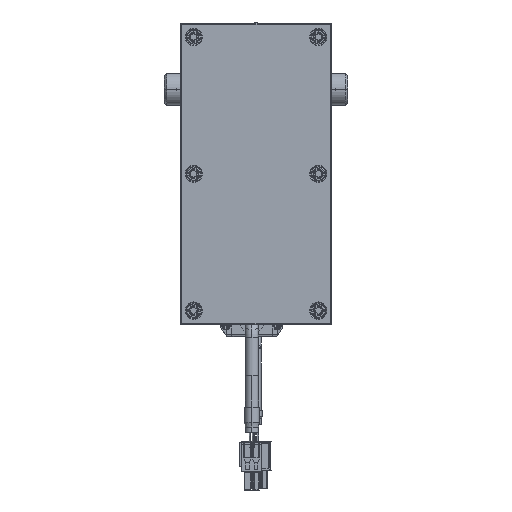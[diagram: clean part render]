
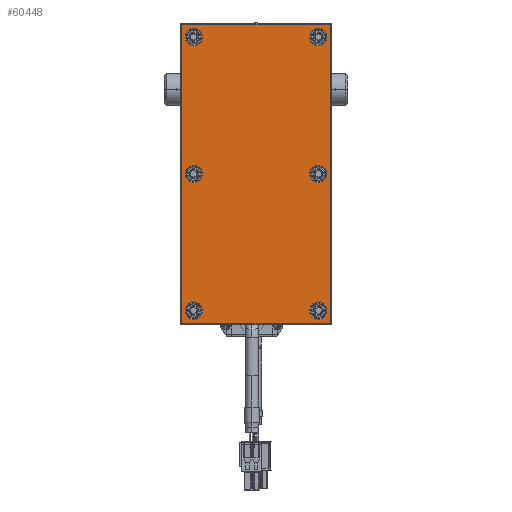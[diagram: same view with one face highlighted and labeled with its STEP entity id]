
A CAD part, front view. The second image highlights one B-rep face of the part: STEP entity #60448.
In plain terms, the highlighted planar face has unit normal (0, -1, 0).
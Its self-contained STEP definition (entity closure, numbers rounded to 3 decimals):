
#59065=CARTESIAN_POINT('',(74.,-6.,-36.5));
#59066=DIRECTION('',(0.,-1.,0.));
#59067=DIRECTION('',(0.,0.,-1.));
#59068=AXIS2_PLACEMENT_3D('',#59065,#59066,#59067);
#59070=DIRECTION('',(1.,0.,0.));
#59071=VECTOR('',#59070,148.);
#59072=CARTESIAN_POINT('',(-74.,-6.,
-37.));
#59073=LINE('',#59072,#59071);
#59074=CARTESIAN_POINT('',(-74.,-6.,-36.5));
#59075=DIRECTION('',(0.,-1.,0.));
#59076=DIRECTION('',(-1.,0.,0.));
#59077=AXIS2_PLACEMENT_3D('',#59074,#59075,#59076);
#59079=DIRECTION('',(0.,0.,-1.));
#59080=VECTOR('',#59079,73.);
#59081=CARTESIAN_POINT('',(-74.5,-6.,
36.5));
#59082=LINE('',#59081,#59080);
#59083=CARTESIAN_POINT('',(-74.,-6.,36.5));
#59084=DIRECTION('',(0.,-1.,0.));
#59085=DIRECTION('',(0.,0.,1.));
#59086=AXIS2_PLACEMENT_3D('',#59083,#59084,#59085);
#59088=DIRECTION('',(-1.,0.,0.));
#59089=VECTOR('',#59088,148.);
#59090=CARTESIAN_POINT('',(74.,-6.,
37.));
#59091=LINE('',#59090,#59089);
#59092=CARTESIAN_POINT('',(74.,-6.,36.5));
#59093=DIRECTION('',(0.,-1.,0.));
#59094=DIRECTION('',(1.,0.,0.));
#59095=AXIS2_PLACEMENT_3D('',#59092,#59093,#59094);
#59097=DIRECTION('',(0.,0.,1.));
#59098=VECTOR('',#59097,73.);
#59099=CARTESIAN_POINT('',(74.5,-6.,
-36.5));
#59100=LINE('',#59099,#59098);
#59101=CARTESIAN_POINT('',(-68.,-6.,-31.));
#59102=DIRECTION('',(0.,1.,0.));
#59103=DIRECTION('',(1.,0.,0.));
#59104=AXIS2_PLACEMENT_3D('',#59101,#59102,#59103);
#59106=CARTESIAN_POINT('',(-68.,-6.,-31.));
#59107=DIRECTION('',(0.,1.,0.));
#59108=DIRECTION('',(-1.,0.,0.));
#59109=AXIS2_PLACEMENT_3D('',#59106,#59107,#59108);
#59111=CARTESIAN_POINT('',(0.,-6.,-31.));
#59112=DIRECTION('',(0.,1.,0.));
#59113=DIRECTION('',(1.,0.,0.));
#59114=AXIS2_PLACEMENT_3D('',#59111,#59112,#59113);
#59116=CARTESIAN_POINT('',(0.,-6.,-31.));
#59117=DIRECTION('',(0.,1.,0.));
#59118=DIRECTION('',(-1.,0.,0.));
#59119=AXIS2_PLACEMENT_3D('',#59116,#59117,#59118);
#59121=CARTESIAN_POINT('',(68.,-6.,-31.));
#59122=DIRECTION('',(0.,1.,0.));
#59123=DIRECTION('',(1.,0.,0.));
#59124=AXIS2_PLACEMENT_3D('',#59121,#59122,#59123);
#59126=CARTESIAN_POINT('',(68.,-6.,-31.));
#59127=DIRECTION('',(0.,1.,0.));
#59128=DIRECTION('',(-1.,0.,0.));
#59129=AXIS2_PLACEMENT_3D('',#59126,#59127,#59128);
#59131=CARTESIAN_POINT('',(68.,-6.,31.));
#59132=DIRECTION('',(0.,1.,0.));
#59133=DIRECTION('',(1.,0.,0.));
#59134=AXIS2_PLACEMENT_3D('',#59131,#59132,#59133);
#59136=CARTESIAN_POINT('',(68.,-6.,31.));
#59137=DIRECTION('',(0.,1.,0.));
#59138=DIRECTION('',(-1.,0.,0.));
#59139=AXIS2_PLACEMENT_3D('',#59136,#59137,#59138);
#59141=CARTESIAN_POINT('',(0.,-6.,31.));
#59142=DIRECTION('',(0.,1.,0.));
#59143=DIRECTION('',(1.,0.,0.));
#59144=AXIS2_PLACEMENT_3D('',#59141,#59142,#59143);
#59146=CARTESIAN_POINT('',(0.,-6.,31.));
#59147=DIRECTION('',(0.,1.,0.));
#59148=DIRECTION('',(-1.,0.,0.));
#59149=AXIS2_PLACEMENT_3D('',#59146,#59147,#59148);
#59151=CARTESIAN_POINT('',(-68.,-6.,31.));
#59152=DIRECTION('',(0.,1.,0.));
#59153=DIRECTION('',(1.,0.,0.));
#59154=AXIS2_PLACEMENT_3D('',#59151,#59152,#59153);
#59156=CARTESIAN_POINT('',(-68.,-6.,31.));
#59157=DIRECTION('',(0.,1.,0.));
#59158=DIRECTION('',(-1.,0.,0.));
#59159=AXIS2_PLACEMENT_3D('',#59156,#59157,#59158);
#60189=CARTESIAN_POINT('',(74.,-6.,-37.));
#60190=CARTESIAN_POINT('',(74.5,-6.,-36.5));
#60191=VERTEX_POINT('',#60189);
#60192=VERTEX_POINT('',#60190);
#60197=CARTESIAN_POINT('',(74.5,-6.,
36.5));
#60198=VERTEX_POINT('',#60197);
#60201=CARTESIAN_POINT('',(74.,-6.,37.));
#60202=VERTEX_POINT('',#60201);
#60205=CARTESIAN_POINT('',(-74.,-6.,
37.));
#60206=VERTEX_POINT('',#60205);
#60209=CARTESIAN_POINT('',(-74.5,-6.,36.5));
#60210=VERTEX_POINT('',#60209);
#60213=CARTESIAN_POINT('',(-74.5,-6.,
-36.5));
#60214=VERTEX_POINT('',#60213);
#60217=CARTESIAN_POINT('',(-74.,-6.,-37.));
#60218=VERTEX_POINT('',#60217);
#60245=CARTESIAN_POINT('',(-63.7,-6.,-31.));
#60246=CARTESIAN_POINT('',(-72.3,-6.,-31.));
#60247=VERTEX_POINT('',#60245);
#60248=VERTEX_POINT('',#60246);
#60261=CARTESIAN_POINT('',(4.3,-6.,-31.));
#60262=CARTESIAN_POINT('',(-4.3,-6.,-31.));
#60263=VERTEX_POINT('',#60261);
#60264=VERTEX_POINT('',#60262);
#60285=CARTESIAN_POINT('',(72.3,-6.,-31.));
#60286=CARTESIAN_POINT('',(63.7,-6.,-31.));
#60287=VERTEX_POINT('',#60285);
#60288=VERTEX_POINT('',#60286);
#60301=CARTESIAN_POINT('',(72.3,-6.,31.));
#60302=CARTESIAN_POINT('',(63.7,-6.,31.));
#60303=VERTEX_POINT('',#60301);
#60304=VERTEX_POINT('',#60302);
#60309=CARTESIAN_POINT('',(4.3,-6.,31.));
#60310=CARTESIAN_POINT('',(-4.3,-6.,31.));
#60311=VERTEX_POINT('',#60309);
#60312=VERTEX_POINT('',#60310);
#60333=CARTESIAN_POINT('',(-63.7,-6.,31.));
#60334=CARTESIAN_POINT('',(-72.3,-6.,31.));
#60335=VERTEX_POINT('',#60333);
#60336=VERTEX_POINT('',#60334);
#60389=CARTESIAN_POINT('',(0.,-6.,0.));
#60390=DIRECTION('',(0.,1.,0.));
#60391=DIRECTION('',(1.,0.,0.));
#60392=AXIS2_PLACEMENT_3D('',#60389,#60390,#60391);
#60393=PLANE('',#60392);
#60395=ORIENTED_EDGE('',*,*,#60394,.F.);
#60397=ORIENTED_EDGE('',*,*,#60396,.F.);
#60399=ORIENTED_EDGE('',*,*,#60398,.F.);
#60401=ORIENTED_EDGE('',*,*,#60400,.F.);
#60403=ORIENTED_EDGE('',*,*,#60402,.F.);
#60405=ORIENTED_EDGE('',*,*,#60404,.F.);
#60407=ORIENTED_EDGE('',*,*,#60406,.F.);
#60409=ORIENTED_EDGE('',*,*,#60408,.F.);
#60410=EDGE_LOOP('',(#60395,#60397,#60399,#60401,#60403,#60405,#60407,#60409));
#60411=FACE_OUTER_BOUND('',#60410,.F.);
#60413=ORIENTED_EDGE('',*,*,#60412,.F.);
#60415=ORIENTED_EDGE('',*,*,#60414,.F.);
#60416=EDGE_LOOP('',(#60413,#60415));
#60417=FACE_BOUND('',#60416,.F.);
#60419=ORIENTED_EDGE('',*,*,#60418,.F.);
#60421=ORIENTED_EDGE('',*,*,#60420,.F.);
#60422=EDGE_LOOP('',(#60419,#60421));
#60423=FACE_BOUND('',#60422,.F.);
#60425=ORIENTED_EDGE('',*,*,#60424,.F.);
#60427=ORIENTED_EDGE('',*,*,#60426,.F.);
#60428=EDGE_LOOP('',(#60425,#60427));
#60429=FACE_BOUND('',#60428,.F.);
#60431=ORIENTED_EDGE('',*,*,#60430,.F.);
#60433=ORIENTED_EDGE('',*,*,#60432,.F.);
#60434=EDGE_LOOP('',(#60431,#60433));
#60435=FACE_BOUND('',#60434,.F.);
#60437=ORIENTED_EDGE('',*,*,#60436,.F.);
#60439=ORIENTED_EDGE('',*,*,#60438,.F.);
#60440=EDGE_LOOP('',(#60437,#60439));
#60441=FACE_BOUND('',#60440,.F.);
#60443=ORIENTED_EDGE('',*,*,#60442,.F.);
#60445=ORIENTED_EDGE('',*,*,#60444,.F.);
#60446=EDGE_LOOP('',(#60443,#60445));
#60447=FACE_BOUND('',#60446,.F.);
#60448=ADVANCED_FACE('',(#60411,#60417,#60423,#60429,#60435,#60441,#60447),
#60393,.F.);
#59069=CIRCLE('',#59068,0.5);
#59078=CIRCLE('',#59077,0.5);
#59087=CIRCLE('',#59086,0.5);
#59096=CIRCLE('',#59095,0.5);
#59105=CIRCLE('',#59104,4.3);
#59110=CIRCLE('',#59109,4.3);
#59115=CIRCLE('',#59114,4.3);
#59120=CIRCLE('',#59119,4.3);
#59125=CIRCLE('',#59124,4.3);
#59130=CIRCLE('',#59129,4.3);
#59135=CIRCLE('',#59134,4.3);
#59140=CIRCLE('',#59139,4.3);
#59145=CIRCLE('',#59144,4.3);
#59150=CIRCLE('',#59149,4.3);
#59155=CIRCLE('',#59154,4.3);
#59160=CIRCLE('',#59159,4.3);
#60394=EDGE_CURVE('',#60191,#60192,#59069,.T.);
#60396=EDGE_CURVE('',#60218,#60191,#59073,.T.);
#60398=EDGE_CURVE('',#60214,#60218,#59078,.T.);
#60400=EDGE_CURVE('',#60210,#60214,#59082,.T.);
#60402=EDGE_CURVE('',#60206,#60210,#59087,.T.);
#60404=EDGE_CURVE('',#60202,#60206,#59091,.T.);
#60406=EDGE_CURVE('',#60198,#60202,#59096,.T.);
#60408=EDGE_CURVE('',#60192,#60198,#59100,.T.);
#60412=EDGE_CURVE('',#60247,#60248,#59105,.T.);
#60414=EDGE_CURVE('',#60248,#60247,#59110,.T.);
#60418=EDGE_CURVE('',#60263,#60264,#59115,.T.);
#60420=EDGE_CURVE('',#60264,#60263,#59120,.T.);
#60424=EDGE_CURVE('',#60287,#60288,#59125,.T.);
#60426=EDGE_CURVE('',#60288,#60287,#59130,.T.);
#60430=EDGE_CURVE('',#60303,#60304,#59135,.T.);
#60432=EDGE_CURVE('',#60304,#60303,#59140,.T.);
#60436=EDGE_CURVE('',#60311,#60312,#59145,.T.);
#60438=EDGE_CURVE('',#60312,#60311,#59150,.T.);
#60442=EDGE_CURVE('',#60335,#60336,#59155,.T.);
#60444=EDGE_CURVE('',#60336,#60335,#59160,.T.);
